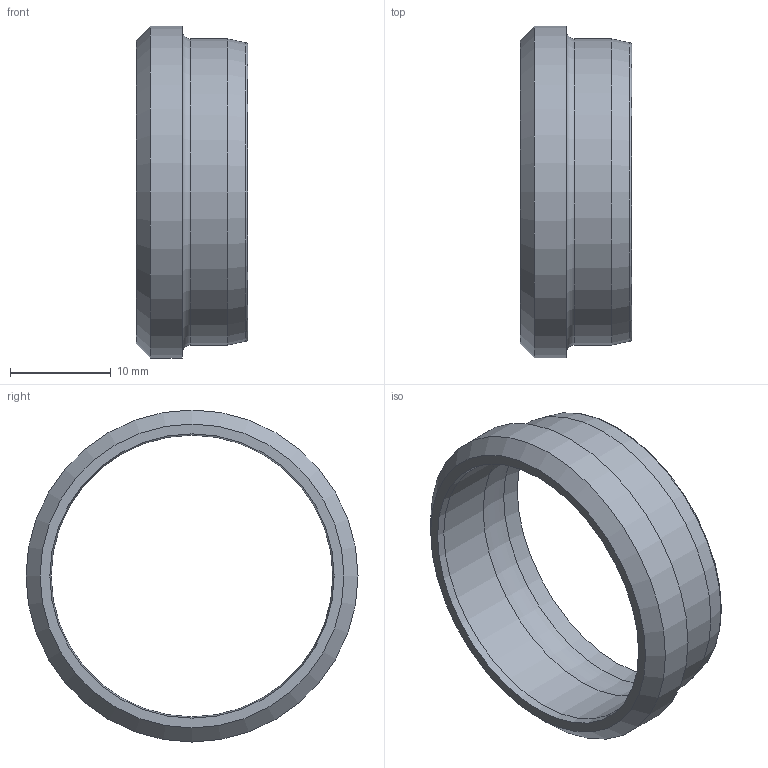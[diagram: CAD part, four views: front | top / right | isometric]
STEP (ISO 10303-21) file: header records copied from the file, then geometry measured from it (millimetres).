
FILE_DESCRIPTION( ( 'Unknown' ), '1' );
FILE_NAME( 'C:/Users/p.nanko/Desktop/3D SR/D28L.stp', 'Unknown', ( 'Peter Nanko' ), ( 'Armaturen Arndt' ), 'PSStep 14.0', 'Solid Edge ST4', ' ' );
FILE_SCHEMA( ( 'AUTOMOTIVE_DESIGN { 1 0 10303 214 1 1 1 1 }' ) );
Length unit declared in the file: millimetre
Products named in the file (1): 1001ESTERNO#0
Bounding box: 11.07 x 33 x 33 mm (x, y, z)
Volume: 1609.4 mm3; surface area: 2410.2 mm2
Topology: 1 solids, 1 shells, 15 faces, 31 edges, 20 vertices
Faces by surface type: torus 4, plane 4, cone 4, cylinder 3
Full cylindrical faces by diameter (mm): 28 x1, 30.45 x1, 33 x1
Entity records: 444 total; most frequent: DIRECTION 62, CARTESIAN_POINT 46, AXIS2_PLACEMENT_3D 31, EDGE_LOOP 30, ORIENTED_EDGE 30, FACE_OUTER_BOUND 22, STYLED_ITEM 15, PRESENTATION_STYLE_ASSIGNMENT 15
